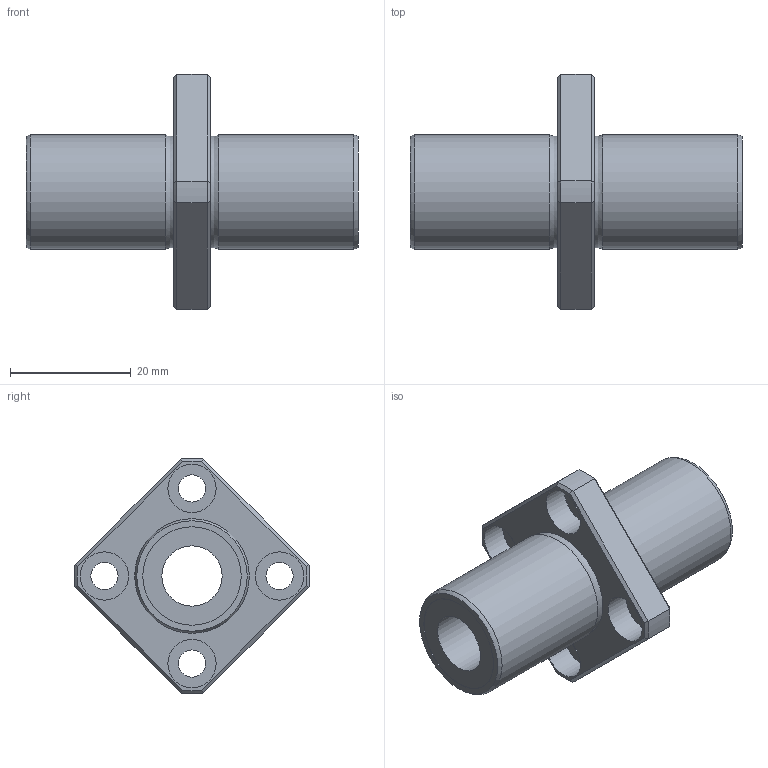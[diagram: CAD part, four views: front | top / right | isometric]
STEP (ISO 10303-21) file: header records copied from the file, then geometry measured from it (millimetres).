
FILE_DESCRIPTION((''),'2;1');
FILE_NAME('D:\製品 (図面)\カタログ用3D\リニアベアリング関連\STEP形式\LFDKC\LFDKC10.stp','2010-06-03T09:37:01',('Tsuchiya'),(''),'Autodesk Inventor 10','Autodesk Inventor 10','');
FILE_SCHEMA(('AUTOMOTIVE_DESIGN { 1 0 10303 214 1 1 1 1 }'));
Length unit declared in the file: millimetre
Products named in the file (1): LFDKC10
Bounding box: 55 x 38.98 x 38.98 mm (x, y, z)
Volume: 13822.9 mm3; surface area: 7291 mm2
Topology: 1 solids, 1 shells, 51 faces, 103 edges, 62 vertices
Faces by surface type: plane 22, cylinder 17, cone 8, torus 2, bspline 2
Full cylindrical faces by diameter (mm): 4.5 x4, 8 x4, 10 x1, 16.3 x2, 19 x2
Entity records: 1413 total; most frequent: CARTESIAN_POINT 372, DIRECTION 216, ORIENTED_EDGE 172, AXIS2_PLACEMENT_3D 96, EDGE_CURVE 86, EDGE_LOOP 86, VERTEX_POINT 62, FACE_OUTER_BOUND 51
